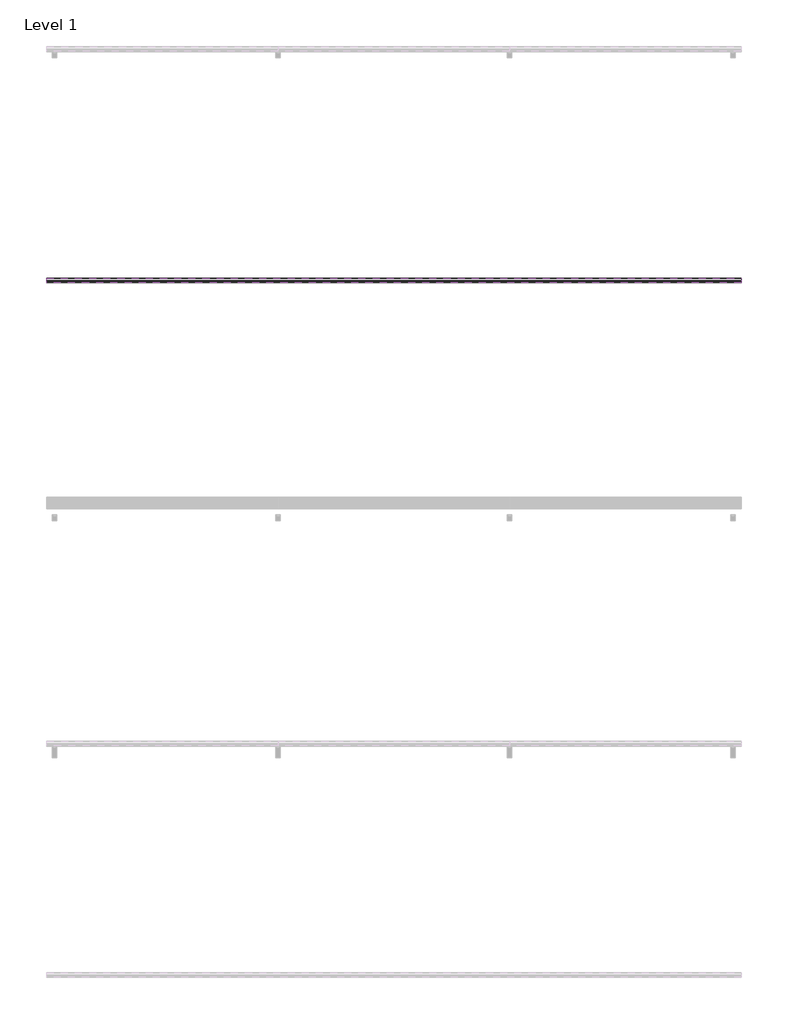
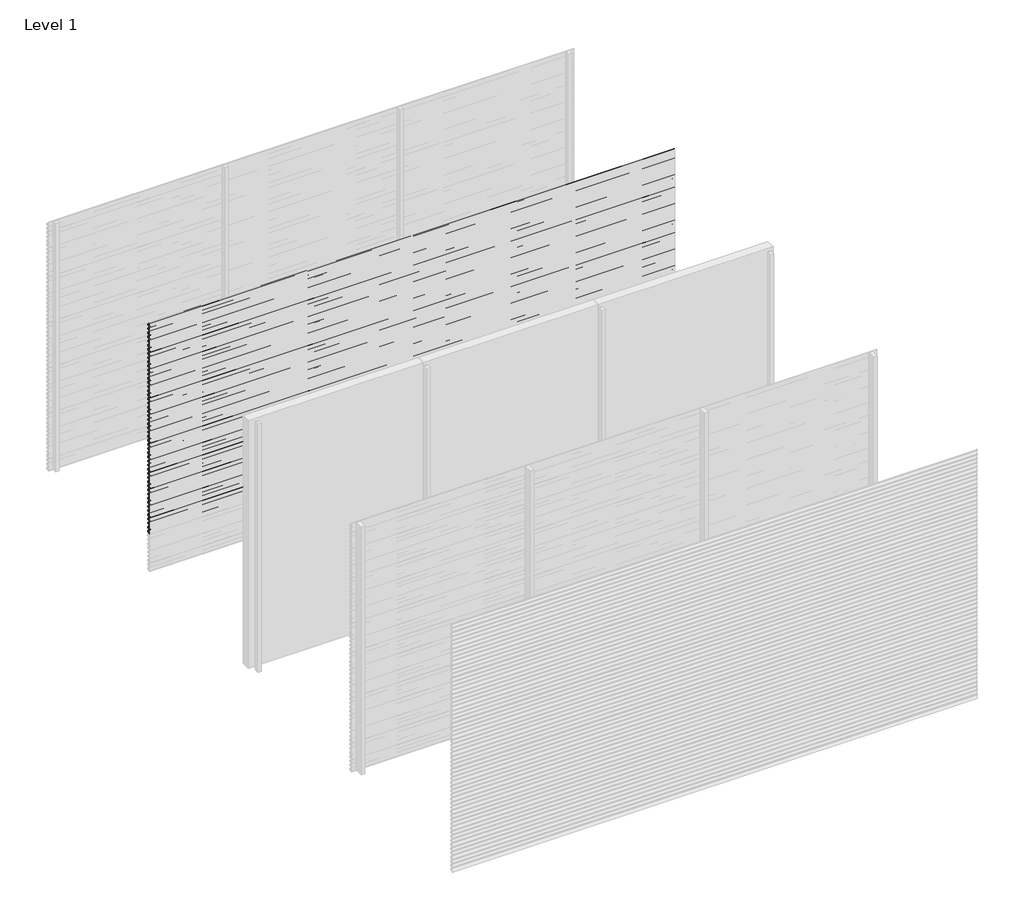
# One storey, part 17 of 38: 66 proxies.
"""IFC4 building model written with IfcOpenShell, lengths in millimetres."""

import ifcopenshell
import ifcopenshell.guid

model = None  # the IFC model being written
_history = None  # IfcOwnerHistory: only IFC2X3 demands one
_inside = {}  # id of a spatial element -> (the spatial element, [elements in it])
_under = {}  # id of a project, library or spatial element -> (it, [spatial elements below it])
_declared = {}  # id of a project -> (the project, [libraries it declares])
_typed = {}  # id of a type object -> (the type object, [elements of that type])
_made_of = {}  # id of a material, layer set ... -> (it, [elements and type objects made of it])


def new_model(schema):
    """Start an empty IFC model of exactly this schema.

    Asked for "IFC4X3", IfcOpenShell would pick the latest addendum, in which some entities
    have other attributes; the version numbers below select the first issue.
    IFC2X3 requires an IfcOwnerHistory on every rooted entity: one is made here for all.
    """
    global model, _history
    if schema == "IFC4X3":
        model = ifcopenshell.file(schema_version=(4, 3, 0, 0))
    else:
        model = ifcopenshell.file(schema=schema)
    _inside.clear()
    _under.clear()
    _declared.clear()
    _typed.clear()
    _made_of.clear()
    _history = None
    if model.schema == "IFC2X3":
        org = make("IfcOrganization", Name="unknown")
        user = make(
            "IfcPersonAndOrganization",
            ThePerson=make("IfcPerson", FamilyName="unknown"),
            TheOrganization=org,
        )
        app = make(
            "IfcApplication",
            ApplicationDeveloper=org,
            Version="unknown",
            ApplicationFullName="unknown",
            ApplicationIdentifier="unknown",
        )
        _history = make(
            "IfcOwnerHistory",
            OwningUser=user,
            OwningApplication=app,
            ChangeAction="ADDED",
            CreationDate=0,
        )
    return model


def make(cls, **values):
    """One entity of the class cls with the attributes given. An attribute that is None is left unset."""
    return model.create_entity(
        cls, **{name: value for name, value in values.items() if value is not None}
    )


def rooted(cls, **values):
    """An entity with a GlobalId (a new one), such as an element, a storey or a relation."""
    return make(cls, GlobalId=ifcopenshell.guid.new(), OwnerHistory=_history, **values)


def si_unit(unit_type, name, prefix=None):
    """IfcSIUnit, for example si_unit("LENGTHUNIT", "METRE", prefix="MILLI")."""
    return make("IfcSIUnit", UnitType=unit_type, Prefix=prefix, Name=name)


def assignment(units):
    """IfcUnitAssignment: the units of a project."""
    return None if units is None else make("IfcUnitAssignment", Units=units)


def point(xyz):
    """IfcCartesianPoint."""
    return None if xyz is None else make("IfcCartesianPoint", Coordinates=xyz)


def direction(xyz):
    """IfcDirection."""
    return None if xyz is None else make("IfcDirection", DirectionRatios=xyz)


def frame(location, z_axis=None, x_axis=None):
    """IfcAxis2Placement3D, a coordinate frame: its origin and axes. An axis left out is left unset."""
    return make(
        "IfcAxis2Placement3D",
        Location=point(location),
        Axis=direction(z_axis),
        RefDirection=direction(x_axis),
    )


def origin():
    """The frame at (0, 0, 0) with its axes left unset."""
    return frame((0.0, 0.0, 0.0))


def place(relative_to, where):
    """IfcLocalPlacement: puts the frame where relative to a parent placement (None: the world)."""
    return make(
        "IfcLocalPlacement", PlacementRelTo=relative_to, RelativePlacement=where
    )


def context(
    kind, dimensions, precision=None, world=None, true_north=None, identifier=None
):
    """IfcGeometricRepresentationContext, for example the 3D "Model" context."""
    return make(
        "IfcGeometricRepresentationContext",
        ContextIdentifier=identifier,
        ContextType=kind,
        CoordinateSpaceDimension=dimensions,
        Precision=precision,
        WorldCoordinateSystem=world,
        TrueNorth=true_north,
    )


def project(units=None, contexts=None):
    """IfcProject with its units and contexts."""
    return rooted(
        "IfcProject",
        Name="project",
        RepresentationContexts=contexts,
        UnitsInContext=assignment(units),
    )


def spatial(cls, under=None, at=None, **own):
    """A site, building, storey or space (cls), placed at a placement, below another one or the project."""
    s = rooted(cls, ObjectPlacement=at, **own)
    if under is not None:
        _under.setdefault(under.id(), (under, []))[1].append(s)
    return s


def polyline(points):
    """IfcPolyline through the points."""
    return make("IfcPolyline", Points=[point(p) for p in points])


def outline(outer, holes=None, kind="AREA"):
    """IfcArbitraryClosedProfileDef: a profile drawn as a closed curve; with holes, ...WithVoids."""
    if holes is None:
        return make("IfcArbitraryClosedProfileDef", ProfileType=kind, OuterCurve=outer)
    return make(
        "IfcArbitraryProfileDefWithVoids",
        ProfileType=kind,
        OuterCurve=outer,
        InnerCurves=holes,
    )


def extrude(swept, where, along, depth):
    """IfcExtrudedAreaSolid: the profile swept, set in the frame where, extruded along a direction by depth."""
    return make(
        "IfcExtrudedAreaSolid",
        SweptArea=swept,
        Position=where,
        ExtrudedDirection=direction(along),
        Depth=depth,
    )


def shape(context_of_items, identifier, shape_type, items):
    """IfcShapeRepresentation: the items that make up one representation, for example the "Body"."""
    return make(
        "IfcShapeRepresentation",
        ContextOfItems=context_of_items,
        RepresentationIdentifier=identifier,
        RepresentationType=shape_type,
        Items=items,
    )


def made_of(thing, what):
    """Note that an element or type object is made of a material, layer set ...; save() writes the relation."""
    if what is not None:
        _made_of.setdefault(what.id(), (what, []))[1].append(thing)
    return thing


def element(
    cls,
    number,
    at=None,
    inside=None,
    cuts=None,
    type_object=None,
    material=None,
    context=None,
    identifier="Body",
    shape_type=None,
    held_by="IfcProductDefinitionShape",
    body=None,
    shapes=None,
    **own,
):
    """One element of the class cls, such as IfcWall. Its Tag is "e" and its number.

    at: its placement. inside: the storey or other place that contains it. cuts: it is an
    opening in that element (IfcRelVoidsElement). A single representation is given by context,
    identifier, shape_type and body (its items); several are given by shapes. held_by: the class
    of the entity that holds the representations. save() writes the other relations.
    """
    e = rooted(cls, Tag="e%d" % number, ObjectPlacement=at, **own)
    if body is not None:
        shapes = [shape(context, identifier, shape_type, body)]
    if shapes is not None:
        e.Representation = make(held_by, Representations=shapes)
    if inside is not None:
        _inside.setdefault(inside.id(), (inside, []))[1].append(e)
    if cuts is not None:
        rooted(
            "IfcRelVoidsElement", RelatingBuildingElement=cuts, RelatedOpeningElement=e
        )
    if type_object is not None:
        _typed.setdefault(type_object.id(), (type_object, []))[1].append(e)
    return made_of(e, material)


def aggregate(whole, parts):
    """IfcRelAggregates: a whole, such as a stair, and the parts it consists of."""
    return rooted("IfcRelAggregates", RelatingObject=whole, RelatedObjects=parts)


def save(model, path):
    """Write the relations noted so far, then the file.

    IfcRelAggregates (storeys below a building ...), IfcRelContainedInSpatialStructure (elements
    in a storey), IfcRelDefinesByType, IfcRelAssociatesMaterial and IfcRelDeclares: one each for
    every whole, place, type object, material and project.
    """
    for whole, parts in _under.values():
        aggregate(whole, parts)
    for where, things in _inside.values():
        rooted(
            "IfcRelContainedInSpatialStructure",
            RelatedElements=things,
            RelatingStructure=where,
        )
    for kind, things in _typed.values():
        rooted("IfcRelDefinesByType", RelatedObjects=things, RelatingType=kind)
    for what, things in _made_of.values():
        rooted("IfcRelAssociatesMaterial", RelatedObjects=things, RelatingMaterial=what)
    for by, libraries in _declared.values():
        rooted("IfcRelDeclares", RelatingContext=by, RelatedDefinitions=libraries)
    model.write(path)


model = new_model("IFC4")

# Units and contexts
model_context = context("Model", 3, world=origin())
ifc_project = project(units=[si_unit("LENGTHUNIT", "METRE", prefix="MILLI")], contexts=[model_context])

# Site, building, storey
site = spatial("IfcSite", under=ifc_project)
building = spatial("IfcBuilding", under=site)
storey = spatial("IfcBuildingStorey", under=building, Name="Level 1", Elevation=0.0)

# Proxies
placement = place(None, origin())
element("IfcBuildingElementProxy", 1, Name="Wall Sweeps", at=placement, inside=storey, context=model_context, shape_type="SweptSolid", body=[
    extrude(outline(polyline([(-31996.75, 3000.0), (-31996.75, 2989.19656), (-31974.6057113, 2976.4115489), (-31957.0, 2959.0472005), (-31957.0, 2944.0472005), (-31958.3, 2945.0268207), (-31958.3, 2958.5034593), (-31969.4914725, 2969.541504), (-31994.2797376, 2940.0), (-31995.9767671, 2940.0), (-31970.4200307, 2970.4573323), (-31975.3999793, 2975.3690091), (-31998.0, 2988.4171371), (-31998.0, 3000.0), (-31996.75, 3000.0)])), frame((0.0, 0.0, 0.0), z_axis=(1.0, 0.0, 0.0), x_axis=(0.0, 1.0, 0.0)), (0.0, 0.0, 1.0), 6000.0),
])
element("IfcBuildingElementProxy", 2, Name="Wall Sweeps", at=placement, inside=storey, context=model_context, shape_type="SweptSolid", body=[
    extrude(outline(polyline([(-31996.75, 2950.0), (-31996.75, 2939.19656), (-31974.6057113, 2926.4115489), (-31957.0, 2909.0472005), (-31957.0, 2894.0472005), (-31958.3, 2895.0268207), (-31958.3, 2908.5034593), (-31969.4914725, 2919.541504), (-31994.2797376, 2890.0), (-31995.9767671, 2890.0), (-31970.4200307, 2920.4573323), (-31975.3999793, 2925.3690091), (-31998.0, 2938.4171371), (-31998.0, 2950.0), (-31996.75, 2950.0)])), frame((0.0, 0.0, 0.0), z_axis=(1.0, 0.0, 0.0), x_axis=(0.0, 1.0, 0.0)), (0.0, 0.0, 1.0), 6000.0),
])
element("IfcBuildingElementProxy", 3, Name="Wall Sweeps", at=placement, inside=storey, context=model_context, shape_type="SweptSolid", body=[
    extrude(outline(polyline([(-31996.75, 2900.0), (-31996.75, 2889.19656), (-31974.6057113, 2876.4115489), (-31957.0, 2859.0472005), (-31957.0, 2844.0472005), (-31958.3, 2845.0268207), (-31958.3, 2858.5034593), (-31969.4914725, 2869.541504), (-31994.2797376, 2840.0), (-31995.9767671, 2840.0), (-31970.4200307, 2870.4573323), (-31975.3999793, 2875.3690091), (-31998.0, 2888.4171371), (-31998.0, 2900.0), (-31996.75, 2900.0)])), frame((0.0, 0.0, 0.0), z_axis=(1.0, 0.0, 0.0), x_axis=(0.0, 1.0, 0.0)), (0.0, 0.0, 1.0), 6000.0),
])
element("IfcBuildingElementProxy", 4, Name="Wall Sweeps", at=placement, inside=storey, context=model_context, shape_type="SweptSolid", body=[
    extrude(outline(polyline([(-31996.75, 2850.0), (-31996.75, 2839.19656), (-31974.6057113, 2826.4115489), (-31957.0, 2809.0472005), (-31957.0, 2794.0472005), (-31958.3, 2795.0268207), (-31958.3, 2808.5034593), (-31969.4914725, 2819.541504), (-31994.2797376, 2790.0), (-31995.9767671, 2790.0), (-31970.4200307, 2820.4573323), (-31975.3999793, 2825.3690091), (-31998.0, 2838.4171371), (-31998.0, 2850.0), (-31996.75, 2850.0)])), frame((0.0, 0.0, 0.0), z_axis=(1.0, 0.0, 0.0), x_axis=(0.0, 1.0, 0.0)), (0.0, 0.0, 1.0), 6000.0),
])
element("IfcBuildingElementProxy", 5, Name="Wall Sweeps", at=placement, inside=storey, context=model_context, shape_type="SweptSolid", body=[
    extrude(outline(polyline([(-31996.75, 2800.0), (-31996.75, 2789.19656), (-31974.6057113, 2776.4115489), (-31957.0, 2759.0472005), (-31957.0, 2744.0472005), (-31958.3, 2745.0268207), (-31958.3, 2758.5034593), (-31969.4914725, 2769.541504), (-31994.2797376, 2740.0), (-31995.9767671, 2740.0), (-31970.4200307, 2770.4573323), (-31975.3999793, 2775.3690091), (-31998.0, 2788.4171371), (-31998.0, 2800.0), (-31996.75, 2800.0)])), frame((0.0, 0.0, 0.0), z_axis=(1.0, 0.0, 0.0), x_axis=(0.0, 1.0, 0.0)), (0.0, 0.0, 1.0), 6000.0),
])
element("IfcBuildingElementProxy", 6, Name="Wall Sweeps", at=placement, inside=storey, context=model_context, shape_type="SweptSolid", body=[
    extrude(outline(polyline([(-31996.75, 2750.0), (-31996.75, 2739.19656), (-31974.6057113, 2726.4115489), (-31957.0, 2709.0472005), (-31957.0, 2694.0472005), (-31958.3, 2695.0268207), (-31958.3, 2708.5034593), (-31969.4914725, 2719.541504), (-31994.2797376, 2690.0), (-31995.9767671, 2690.0), (-31970.4200307, 2720.4573323), (-31975.3999793, 2725.3690091), (-31998.0, 2738.4171371), (-31998.0, 2750.0), (-31996.75, 2750.0)])), frame((0.0, 0.0, 0.0), z_axis=(1.0, 0.0, 0.0), x_axis=(0.0, 1.0, 0.0)), (0.0, 0.0, 1.0), 6000.0),
])
element("IfcBuildingElementProxy", 7, Name="Wall Sweeps", at=placement, inside=storey, context=model_context, shape_type="SweptSolid", body=[
    extrude(outline(polyline([(-31996.75, 2700.0), (-31996.75, 2689.19656), (-31974.6057113, 2676.4115489), (-31957.0, 2659.0472005), (-31957.0, 2644.0472005), (-31958.3, 2645.0268207), (-31958.3, 2658.5034593), (-31969.4914725, 2669.541504), (-31994.2797376, 2640.0), (-31995.9767671, 2640.0), (-31970.4200307, 2670.4573323), (-31975.3999793, 2675.3690091), (-31998.0, 2688.4171371), (-31998.0, 2700.0), (-31996.75, 2700.0)])), frame((0.0, 0.0, 0.0), z_axis=(1.0, 0.0, 0.0), x_axis=(0.0, 1.0, 0.0)), (0.0, 0.0, 1.0), 6000.0),
])
element("IfcBuildingElementProxy", 8, Name="Wall Sweeps", at=placement, inside=storey, context=model_context, shape_type="SweptSolid", body=[
    extrude(outline(polyline([(-31996.75, 2650.0), (-31996.75, 2639.19656), (-31974.6057113, 2626.4115489), (-31957.0, 2609.0472005), (-31957.0, 2594.0472005), (-31958.3, 2595.0268207), (-31958.3, 2608.5034593), (-31969.4914725, 2619.541504), (-31994.2797376, 2590.0), (-31995.9767671, 2590.0), (-31970.4200307, 2620.4573323), (-31975.3999793, 2625.3690091), (-31998.0, 2638.4171371), (-31998.0, 2650.0), (-31996.75, 2650.0)])), frame((0.0, 0.0, 0.0), z_axis=(1.0, 0.0, 0.0), x_axis=(0.0, 1.0, 0.0)), (0.0, 0.0, 1.0), 6000.0),
])
element("IfcBuildingElementProxy", 9, Name="Wall Sweeps", at=placement, inside=storey, context=model_context, shape_type="SweptSolid", body=[
    extrude(outline(polyline([(-31996.75, 2600.0), (-31996.75, 2589.19656), (-31974.6057113, 2576.4115489), (-31957.0, 2559.0472005), (-31957.0, 2544.0472005), (-31958.3, 2545.0268207), (-31958.3, 2558.5034593), (-31969.4914725, 2569.541504), (-31994.2797376, 2540.0), (-31995.9767671, 2540.0), (-31970.4200307, 2570.4573323), (-31975.3999793, 2575.3690091), (-31998.0, 2588.4171371), (-31998.0, 2600.0), (-31996.75, 2600.0)])), frame((0.0, 0.0, 0.0), z_axis=(1.0, 0.0, 0.0), x_axis=(0.0, 1.0, 0.0)), (0.0, 0.0, 1.0), 6000.0),
])
element("IfcBuildingElementProxy", 10, Name="Wall Sweeps", at=placement, inside=storey, context=model_context, shape_type="SweptSolid", body=[
    extrude(outline(polyline([(-31996.75, 2550.0), (-31996.75, 2539.19656), (-31974.6057113, 2526.4115489), (-31957.0, 2509.0472005), (-31957.0, 2494.0472005), (-31958.3, 2495.0268207), (-31958.3, 2508.5034593), (-31969.4914725, 2519.541504), (-31994.2797376, 2490.0), (-31995.9767671, 2490.0), (-31970.4200307, 2520.4573323), (-31975.3999793, 2525.3690091), (-31998.0, 2538.4171371), (-31998.0, 2550.0), (-31996.75, 2550.0)])), frame((0.0, 0.0, 0.0), z_axis=(1.0, 0.0, 0.0), x_axis=(0.0, 1.0, 0.0)), (0.0, 0.0, 1.0), 6000.0),
])
element("IfcBuildingElementProxy", 11, Name="Wall Sweeps", at=placement, inside=storey, context=model_context, shape_type="SweptSolid", body=[
    extrude(outline(polyline([(-31996.75, 2500.0), (-31996.75, 2489.19656), (-31974.6057113, 2476.4115489), (-31957.0, 2459.0472005), (-31957.0, 2444.0472005), (-31958.3, 2445.0268207), (-31958.3, 2458.5034593), (-31969.4914725, 2469.541504), (-31994.2797376, 2440.0), (-31995.9767671, 2440.0), (-31970.4200307, 2470.4573323), (-31975.3999793, 2475.3690091), (-31998.0, 2488.4171371), (-31998.0, 2500.0), (-31996.75, 2500.0)])), frame((0.0, 0.0, 0.0), z_axis=(1.0, 0.0, 0.0), x_axis=(0.0, 1.0, 0.0)), (0.0, 0.0, 1.0), 6000.0),
])
element("IfcBuildingElementProxy", 12, Name="Wall Sweeps", at=placement, inside=storey, context=model_context, shape_type="SweptSolid", body=[
    extrude(outline(polyline([(-31996.75, 2450.0), (-31996.75, 2439.19656), (-31974.6057113, 2426.4115489), (-31957.0, 2409.0472005), (-31957.0, 2394.0472005), (-31958.3, 2395.0268207), (-31958.3, 2408.5034593), (-31969.4914725, 2419.541504), (-31994.2797376, 2390.0), (-31995.9767671, 2390.0), (-31970.4200307, 2420.4573323), (-31975.3999793, 2425.3690091), (-31998.0, 2438.4171371), (-31998.0, 2450.0), (-31996.75, 2450.0)])), frame((0.0, 0.0, 0.0), z_axis=(1.0, 0.0, 0.0), x_axis=(0.0, 1.0, 0.0)), (0.0, 0.0, 1.0), 6000.0),
])
element("IfcBuildingElementProxy", 13, Name="Wall Sweeps", at=placement, inside=storey, context=model_context, shape_type="SweptSolid", body=[
    extrude(outline(polyline([(-31996.75, 2400.0), (-31996.75, 2389.19656), (-31974.6057113, 2376.4115489), (-31957.0, 2359.0472005), (-31957.0, 2344.0472005), (-31958.3, 2345.0268207), (-31958.3, 2358.5034593), (-31969.4914725, 2369.541504), (-31994.2797376, 2340.0), (-31995.9767671, 2340.0), (-31970.4200307, 2370.4573323), (-31975.3999793, 2375.3690091), (-31998.0, 2388.4171371), (-31998.0, 2400.0), (-31996.75, 2400.0)])), frame((0.0, 0.0, 0.0), z_axis=(1.0, 0.0, 0.0), x_axis=(0.0, 1.0, 0.0)), (0.0, 0.0, 1.0), 6000.0),
])
element("IfcBuildingElementProxy", 14, Name="Wall Sweeps", at=placement, inside=storey, context=model_context, shape_type="SweptSolid", body=[
    extrude(outline(polyline([(-31996.75, 2350.0), (-31996.75, 2339.19656), (-31974.6057113, 2326.4115489), (-31957.0, 2309.0472005), (-31957.0, 2294.0472005), (-31958.3, 2295.0268207), (-31958.3, 2308.5034593), (-31969.4914725, 2319.541504), (-31994.2797376, 2290.0), (-31995.9767671, 2290.0), (-31970.4200307, 2320.4573323), (-31975.3999793, 2325.3690091), (-31998.0, 2338.4171371), (-31998.0, 2350.0), (-31996.75, 2350.0)])), frame((0.0, 0.0, 0.0), z_axis=(1.0, 0.0, 0.0), x_axis=(0.0, 1.0, 0.0)), (0.0, 0.0, 1.0), 6000.0),
])
element("IfcBuildingElementProxy", 15, Name="Wall Sweeps", at=placement, inside=storey, context=model_context, shape_type="SweptSolid", body=[
    extrude(outline(polyline([(-31996.75, 2300.0), (-31996.75, 2289.19656), (-31974.6057113, 2276.4115489), (-31957.0, 2259.0472005), (-31957.0, 2244.0472005), (-31958.3, 2245.0268207), (-31958.3, 2258.5034593), (-31969.4914725, 2269.541504), (-31994.2797376, 2240.0), (-31995.9767671, 2240.0), (-31970.4200307, 2270.4573323), (-31975.3999793, 2275.3690091), (-31998.0, 2288.4171371), (-31998.0, 2300.0), (-31996.75, 2300.0)])), frame((0.0, 0.0, 0.0), z_axis=(1.0, 0.0, 0.0), x_axis=(0.0, 1.0, 0.0)), (0.0, 0.0, 1.0), 6000.0),
])
element("IfcBuildingElementProxy", 16, Name="Wall Sweeps", at=placement, inside=storey, context=model_context, shape_type="SweptSolid", body=[
    extrude(outline(polyline([(-31996.75, 2250.0), (-31996.75, 2239.19656), (-31974.6057113, 2226.4115489), (-31957.0, 2209.0472005), (-31957.0, 2194.0472005), (-31958.3, 2195.0268207), (-31958.3, 2208.5034593), (-31969.4914725, 2219.541504), (-31994.2797376, 2190.0), (-31995.9767671, 2190.0), (-31970.4200307, 2220.4573323), (-31975.3999793, 2225.3690091), (-31998.0, 2238.4171371), (-31998.0, 2250.0), (-31996.75, 2250.0)])), frame((0.0, 0.0, 0.0), z_axis=(1.0, 0.0, 0.0), x_axis=(0.0, 1.0, 0.0)), (0.0, 0.0, 1.0), 6000.0),
])
element("IfcBuildingElementProxy", 17, Name="Wall Sweeps", at=placement, inside=storey, context=model_context, shape_type="SweptSolid", body=[
    extrude(outline(polyline([(-31996.75, 2200.0), (-31996.75, 2189.19656), (-31974.6057113, 2176.4115489), (-31957.0, 2159.0472005), (-31957.0, 2144.0472005), (-31958.3, 2145.0268207), (-31958.3, 2158.5034593), (-31969.4914725, 2169.541504), (-31994.2797376, 2140.0), (-31995.9767671, 2140.0), (-31970.4200307, 2170.4573323), (-31975.3999793, 2175.3690091), (-31998.0, 2188.4171371), (-31998.0, 2200.0), (-31996.75, 2200.0)])), frame((0.0, 0.0, 0.0), z_axis=(1.0, 0.0, 0.0), x_axis=(0.0, 1.0, 0.0)), (0.0, 0.0, 1.0), 6000.0),
])
element("IfcBuildingElementProxy", 18, Name="Wall Sweeps", at=placement, inside=storey, context=model_context, shape_type="SweptSolid", body=[
    extrude(outline(polyline([(-31996.75, 2150.0), (-31996.75, 2139.19656), (-31974.6057113, 2126.4115489), (-31957.0, 2109.0472005), (-31957.0, 2094.0472005), (-31958.3, 2095.0268207), (-31958.3, 2108.5034593), (-31969.4914725, 2119.541504), (-31994.2797376, 2090.0), (-31995.9767671, 2090.0), (-31970.4200307, 2120.4573323), (-31975.3999793, 2125.3690091), (-31998.0, 2138.4171371), (-31998.0, 2150.0), (-31996.75, 2150.0)])), frame((0.0, 0.0, 0.0), z_axis=(1.0, 0.0, 0.0), x_axis=(0.0, 1.0, 0.0)), (0.0, 0.0, 1.0), 6000.0),
])
element("IfcBuildingElementProxy", 19, Name="Wall Sweeps", at=placement, inside=storey, context=model_context, shape_type="SweptSolid", body=[
    extrude(outline(polyline([(-31996.75, 2100.0), (-31996.75, 2089.19656), (-31974.6057113, 2076.4115489), (-31957.0, 2059.0472005), (-31957.0, 2044.0472005), (-31958.3, 2045.0268207), (-31958.3, 2058.5034593), (-31969.4914725, 2069.541504), (-31994.2797376, 2040.0), (-31995.9767671, 2040.0), (-31970.4200307, 2070.4573323), (-31975.3999793, 2075.3690091), (-31998.0, 2088.4171371), (-31998.0, 2100.0), (-31996.75, 2100.0)])), frame((0.0, 0.0, 0.0), z_axis=(1.0, 0.0, 0.0), x_axis=(0.0, 1.0, 0.0)), (0.0, 0.0, 1.0), 6000.0),
])
element("IfcBuildingElementProxy", 20, Name="Wall Sweeps", at=placement, inside=storey, context=model_context, shape_type="SweptSolid", body=[
    extrude(outline(polyline([(-31996.75, 2050.0), (-31996.75, 2039.19656), (-31974.6057113, 2026.4115489), (-31957.0, 2009.0472005), (-31957.0, 1994.0472005), (-31958.3, 1995.0268207), (-31958.3, 2008.5034593), (-31969.4914725, 2019.541504), (-31994.2797376, 1990.0), (-31995.9767671, 1990.0), (-31970.4200307, 2020.4573323), (-31975.3999793, 2025.3690091), (-31998.0, 2038.4171371), (-31998.0, 2050.0), (-31996.75, 2050.0)])), frame((0.0, 0.0, 0.0), z_axis=(1.0, 0.0, 0.0), x_axis=(0.0, 1.0, 0.0)), (0.0, 0.0, 1.0), 6000.0),
])
element("IfcBuildingElementProxy", 21, Name="Wall Sweeps", at=placement, inside=storey, context=model_context, shape_type="SweptSolid", body=[
    extrude(outline(polyline([(-31996.75, 2000.0), (-31996.75, 1989.19656), (-31974.6057113, 1976.4115489), (-31957.0, 1959.0472005), (-31957.0, 1944.0472005), (-31958.3, 1945.0268207), (-31958.3, 1958.5034593), (-31969.4914725, 1969.541504), (-31994.2797376, 1940.0), (-31995.9767671, 1940.0), (-31970.4200307, 1970.4573323), (-31975.3999793, 1975.3690091), (-31998.0, 1988.4171371), (-31998.0, 2000.0), (-31996.75, 2000.0)])), frame((0.0, 0.0, 0.0), z_axis=(1.0, 0.0, 0.0), x_axis=(0.0, 1.0, 0.0)), (0.0, 0.0, 1.0), 6000.0),
])
element("IfcBuildingElementProxy", 22, Name="Wall Sweeps", at=placement, inside=storey, context=model_context, shape_type="SweptSolid", body=[
    extrude(outline(polyline([(-31996.75, 1950.0), (-31996.75, 1939.19656), (-31974.6057113, 1926.4115489), (-31957.0, 1909.0472005), (-31957.0, 1894.0472005), (-31958.3, 1895.0268207), (-31958.3, 1908.5034593), (-31969.4914725, 1919.541504), (-31994.2797376, 1890.0), (-31995.9767671, 1890.0), (-31970.4200307, 1920.4573323), (-31975.3999793, 1925.3690091), (-31998.0, 1938.4171371), (-31998.0, 1950.0), (-31996.75, 1950.0)])), frame((0.0, 0.0, 0.0), z_axis=(1.0, 0.0, 0.0), x_axis=(0.0, 1.0, 0.0)), (0.0, 0.0, 1.0), 6000.0),
])
element("IfcBuildingElementProxy", 23, Name="Wall Sweeps", at=placement, inside=storey, context=model_context, shape_type="SweptSolid", body=[
    extrude(outline(polyline([(-31996.75, 1900.0), (-31996.75, 1889.19656), (-31974.6057113, 1876.4115489), (-31957.0, 1859.0472005), (-31957.0, 1844.0472005), (-31958.3, 1845.0268207), (-31958.3, 1858.5034593), (-31969.4914725, 1869.541504), (-31994.2797376, 1840.0), (-31995.9767671, 1840.0), (-31970.4200307, 1870.4573323), (-31975.3999793, 1875.3690091), (-31998.0, 1888.4171371), (-31998.0, 1900.0), (-31996.75, 1900.0)])), frame((0.0, 0.0, 0.0), z_axis=(1.0, 0.0, 0.0), x_axis=(0.0, 1.0, 0.0)), (0.0, 0.0, 1.0), 6000.0),
])
element("IfcBuildingElementProxy", 24, Name="Wall Sweeps", at=placement, inside=storey, context=model_context, shape_type="SweptSolid", body=[
    extrude(outline(polyline([(-31996.75, 1850.0), (-31996.75, 1839.19656), (-31974.6057113, 1826.4115489), (-31957.0, 1809.0472005), (-31957.0, 1794.0472005), (-31958.3, 1795.0268207), (-31958.3, 1808.5034593), (-31969.4914725, 1819.541504), (-31994.2797376, 1790.0), (-31995.9767671, 1790.0), (-31970.4200307, 1820.4573323), (-31975.3999793, 1825.3690091), (-31998.0, 1838.4171371), (-31998.0, 1850.0), (-31996.75, 1850.0)])), frame((0.0, 0.0, 0.0), z_axis=(1.0, 0.0, 0.0), x_axis=(0.0, 1.0, 0.0)), (0.0, 0.0, 1.0), 6000.0),
])
element("IfcBuildingElementProxy", 25, Name="Wall Sweeps", at=placement, inside=storey, context=model_context, shape_type="SweptSolid", body=[
    extrude(outline(polyline([(-31996.75, 1800.0), (-31996.75, 1789.19656), (-31974.6057113, 1776.4115489), (-31957.0, 1759.0472005), (-31957.0, 1744.0472005), (-31958.3, 1745.0268207), (-31958.3, 1758.5034593), (-31969.4914725, 1769.541504), (-31994.2797376, 1740.0), (-31995.9767671, 1740.0), (-31970.4200307, 1770.4573323), (-31975.3999793, 1775.3690091), (-31998.0, 1788.4171371), (-31998.0, 1800.0), (-31996.75, 1800.0)])), frame((0.0, 0.0, 0.0), z_axis=(1.0, 0.0, 0.0), x_axis=(0.0, 1.0, 0.0)), (0.0, 0.0, 1.0), 6000.0),
])
element("IfcBuildingElementProxy", 26, Name="Wall Sweeps", at=placement, inside=storey, context=model_context, shape_type="SweptSolid", body=[
    extrude(outline(polyline([(-31996.75, 1750.0), (-31996.75, 1739.19656), (-31974.6057113, 1726.4115489), (-31957.0, 1709.0472005), (-31957.0, 1694.0472005), (-31958.3, 1695.0268207), (-31958.3, 1708.5034593), (-31969.4914725, 1719.541504), (-31994.2797376, 1690.0), (-31995.9767671, 1690.0), (-31970.4200307, 1720.4573323), (-31975.3999793, 1725.3690091), (-31998.0, 1738.4171371), (-31998.0, 1750.0), (-31996.75, 1750.0)])), frame((0.0, 0.0, 0.0), z_axis=(1.0, 0.0, 0.0), x_axis=(0.0, 1.0, 0.0)), (0.0, 0.0, 1.0), 6000.0),
])
element("IfcBuildingElementProxy", 27, Name="Wall Sweeps", at=placement, inside=storey, context=model_context, shape_type="SweptSolid", body=[
    extrude(outline(polyline([(-31996.75, 1700.0), (-31996.75, 1689.19656), (-31974.6057113, 1676.4115489), (-31957.0, 1659.0472005), (-31957.0, 1644.0472005), (-31958.3, 1645.0268207), (-31958.3, 1658.5034593), (-31969.4914725, 1669.541504), (-31994.2797376, 1640.0), (-31995.9767671, 1640.0), (-31970.4200307, 1670.4573323), (-31975.3999793, 1675.3690091), (-31998.0, 1688.4171371), (-31998.0, 1700.0), (-31996.75, 1700.0)])), frame((0.0, 0.0, 0.0), z_axis=(1.0, 0.0, 0.0), x_axis=(0.0, 1.0, 0.0)), (0.0, 0.0, 1.0), 6000.0),
])
element("IfcBuildingElementProxy", 28, Name="Wall Sweeps", at=placement, inside=storey, context=model_context, shape_type="SweptSolid", body=[
    extrude(outline(polyline([(-31996.75, 1650.0), (-31996.75, 1639.19656), (-31974.6057113, 1626.4115489), (-31957.0, 1609.0472005), (-31957.0, 1594.0472005), (-31958.3, 1595.0268207), (-31958.3, 1608.5034593), (-31969.4914725, 1619.541504), (-31994.2797376, 1590.0), (-31995.9767671, 1590.0), (-31970.4200307, 1620.4573323), (-31975.3999793, 1625.3690091), (-31998.0, 1638.4171371), (-31998.0, 1650.0), (-31996.75, 1650.0)])), frame((0.0, 0.0, 0.0), z_axis=(1.0, 0.0, 0.0), x_axis=(0.0, 1.0, 0.0)), (0.0, 0.0, 1.0), 6000.0),
])
element("IfcBuildingElementProxy", 29, Name="Wall Sweeps", at=placement, inside=storey, context=model_context, shape_type="SweptSolid", body=[
    extrude(outline(polyline([(-31996.75, 1600.0), (-31996.75, 1589.19656), (-31974.6057113, 1576.4115489), (-31957.0, 1559.0472005), (-31957.0, 1544.0472005), (-31958.3, 1545.0268207), (-31958.3, 1558.5034593), (-31969.4914725, 1569.541504), (-31994.2797376, 1540.0), (-31995.9767671, 1540.0), (-31970.4200307, 1570.4573323), (-31975.3999793, 1575.3690091), (-31998.0, 1588.4171371), (-31998.0, 1600.0), (-31996.75, 1600.0)])), frame((0.0, 0.0, 0.0), z_axis=(1.0, 0.0, 0.0), x_axis=(0.0, 1.0, 0.0)), (0.0, 0.0, 1.0), 6000.0),
])
element("IfcBuildingElementProxy", 30, Name="Wall Sweeps", at=placement, inside=storey, context=model_context, shape_type="SweptSolid", body=[
    extrude(outline(polyline([(-31996.75, 1550.0), (-31996.75, 1539.19656), (-31974.6057113, 1526.4115489), (-31957.0, 1509.0472005), (-31957.0, 1494.0472005), (-31958.3, 1495.0268207), (-31958.3, 1508.5034593), (-31969.4914725, 1519.541504), (-31994.2797376, 1490.0), (-31995.9767671, 1490.0), (-31970.4200307, 1520.4573323), (-31975.3999793, 1525.3690091), (-31998.0, 1538.4171371), (-31998.0, 1550.0), (-31996.75, 1550.0)])), frame((0.0, 0.0, 0.0), z_axis=(1.0, 0.0, 0.0), x_axis=(0.0, 1.0, 0.0)), (0.0, 0.0, 1.0), 6000.0),
])
element("IfcBuildingElementProxy", 31, Name="Wall Sweeps", at=placement, inside=storey, context=model_context, shape_type="SweptSolid", body=[
    extrude(outline(polyline([(-31996.75, 1500.0), (-31996.75, 1489.19656), (-31974.6057113, 1476.4115489), (-31957.0, 1459.0472005), (-31957.0, 1444.0472005), (-31958.3, 1445.0268207), (-31958.3, 1458.5034593), (-31969.4914725, 1469.541504), (-31994.2797376, 1440.0), (-31995.9767671, 1440.0), (-31970.4200307, 1470.4573323), (-31975.3999793, 1475.3690091), (-31998.0, 1488.4171371), (-31998.0, 1500.0), (-31996.75, 1500.0)])), frame((0.0, 0.0, 0.0), z_axis=(1.0, 0.0, 0.0), x_axis=(0.0, 1.0, 0.0)), (0.0, 0.0, 1.0), 6000.0),
])
element("IfcBuildingElementProxy", 32, Name="Wall Sweeps", at=placement, inside=storey, context=model_context, shape_type="SweptSolid", body=[
    extrude(outline(polyline([(-31996.75, 1450.0), (-31996.75, 1439.19656), (-31974.6057113, 1426.4115489), (-31957.0, 1409.0472005), (-31957.0, 1394.0472005), (-31958.3, 1395.0268207), (-31958.3, 1408.5034593), (-31969.4914725, 1419.541504), (-31994.2797376, 1390.0), (-31995.9767671, 1390.0), (-31970.4200307, 1420.4573323), (-31975.3999793, 1425.3690091), (-31998.0, 1438.4171371), (-31998.0, 1450.0), (-31996.75, 1450.0)])), frame((0.0, 0.0, 0.0), z_axis=(1.0, 0.0, 0.0), x_axis=(0.0, 1.0, 0.0)), (0.0, 0.0, 1.0), 6000.0),
])
element("IfcBuildingElementProxy", 33, Name="Wall Sweeps", at=placement, inside=storey, context=model_context, shape_type="SweptSolid", body=[
    extrude(outline(polyline([(-31996.75, 1400.0), (-31996.75, 1389.19656), (-31974.6057113, 1376.4115489), (-31957.0, 1359.0472005), (-31957.0, 1344.0472005), (-31958.3, 1345.0268207), (-31958.3, 1358.5034593), (-31969.4914725, 1369.541504), (-31994.2797376, 1340.0), (-31995.9767671, 1340.0), (-31970.4200307, 1370.4573323), (-31975.3999793, 1375.3690091), (-31998.0, 1388.4171371), (-31998.0, 1400.0), (-31996.75, 1400.0)])), frame((0.0, 0.0, 0.0), z_axis=(1.0, 0.0, 0.0), x_axis=(0.0, 1.0, 0.0)), (0.0, 0.0, 1.0), 6000.0),
])
element("IfcBuildingElementProxy", 34, Name="Wall Sweeps", at=placement, inside=storey, context=model_context, shape_type="SweptSolid", body=[
    extrude(outline(polyline([(-31996.75, 1350.0), (-31996.75, 1339.19656), (-31974.6057113, 1326.4115489), (-31957.0, 1309.0472005), (-31957.0, 1294.0472005), (-31958.3, 1295.0268207), (-31958.3, 1308.5034593), (-31969.4914725, 1319.541504), (-31994.2797376, 1290.0), (-31995.9767671, 1290.0), (-31970.4200307, 1320.4573323), (-31975.3999793, 1325.3690091), (-31998.0, 1338.4171371), (-31998.0, 1350.0), (-31996.75, 1350.0)])), frame((0.0, 0.0, 0.0), z_axis=(1.0, 0.0, 0.0), x_axis=(0.0, 1.0, 0.0)), (0.0, 0.0, 1.0), 6000.0),
])
element("IfcBuildingElementProxy", 35, Name="Wall Sweeps", at=placement, inside=storey, context=model_context, shape_type="SweptSolid", body=[
    extrude(outline(polyline([(-31996.75, 1300.0), (-31996.75, 1289.19656), (-31974.6057113, 1276.4115489), (-31957.0, 1259.0472005), (-31957.0, 1244.0472005), (-31958.3, 1245.0268207), (-31958.3, 1258.5034593), (-31969.4914725, 1269.541504), (-31994.2797376, 1240.0), (-31995.9767671, 1240.0), (-31970.4200307, 1270.4573323), (-31975.3999793, 1275.3690091), (-31998.0, 1288.4171371), (-31998.0, 1300.0), (-31996.75, 1300.0)])), frame((0.0, 0.0, 0.0), z_axis=(1.0, 0.0, 0.0), x_axis=(0.0, 1.0, 0.0)), (0.0, 0.0, 1.0), 6000.0),
])
element("IfcBuildingElementProxy", 36, Name="Wall Sweeps", at=placement, inside=storey, context=model_context, shape_type="SweptSolid", body=[
    extrude(outline(polyline([(-31996.75, 1250.0), (-31996.75, 1239.19656), (-31974.6057113, 1226.4115489), (-31957.0, 1209.0472005), (-31957.0, 1194.0472005), (-31958.3, 1195.0268207), (-31958.3, 1208.5034593), (-31969.4914725, 1219.541504), (-31994.2797376, 1190.0), (-31995.9767671, 1190.0), (-31970.4200307, 1220.4573323), (-31975.3999793, 1225.3690091), (-31998.0, 1238.4171371), (-31998.0, 1250.0), (-31996.75, 1250.0)])), frame((0.0, 0.0, 0.0), z_axis=(1.0, 0.0, 0.0), x_axis=(0.0, 1.0, 0.0)), (0.0, 0.0, 1.0), 6000.0),
])
element("IfcBuildingElementProxy", 37, Name="Wall Sweeps", at=placement, inside=storey, context=model_context, shape_type="SweptSolid", body=[
    extrude(outline(polyline([(-31996.75, 1200.0), (-31996.75, 1189.19656), (-31974.6057113, 1176.4115489), (-31957.0, 1159.0472005), (-31957.0, 1144.0472005), (-31958.3, 1145.0268207), (-31958.3, 1158.5034593), (-31969.4914725, 1169.541504), (-31994.2797376, 1140.0), (-31995.9767671, 1140.0), (-31970.4200307, 1170.4573323), (-31975.3999793, 1175.3690091), (-31998.0, 1188.4171371), (-31998.0, 1200.0), (-31996.75, 1200.0)])), frame((0.0, 0.0, 0.0), z_axis=(1.0, 0.0, 0.0), x_axis=(0.0, 1.0, 0.0)), (0.0, 0.0, 1.0), 6000.0),
])
element("IfcBuildingElementProxy", 38, Name="Wall Sweeps", at=placement, inside=storey, context=model_context, shape_type="SweptSolid", body=[
    extrude(outline(polyline([(-31996.75, 1150.0), (-31996.75, 1139.19656), (-31974.6057113, 1126.4115489), (-31957.0, 1109.0472005), (-31957.0, 1094.0472005), (-31958.3, 1095.0268207), (-31958.3, 1108.5034593), (-31969.4914725, 1119.541504), (-31994.2797376, 1090.0), (-31995.9767671, 1090.0), (-31970.4200307, 1120.4573323), (-31975.3999793, 1125.3690091), (-31998.0, 1138.4171371), (-31998.0, 1150.0), (-31996.75, 1150.0)])), frame((0.0, 0.0, 0.0), z_axis=(1.0, 0.0, 0.0), x_axis=(0.0, 1.0, 0.0)), (0.0, 0.0, 1.0), 6000.0),
])
element("IfcBuildingElementProxy", 39, Name="Wall Sweeps", at=placement, inside=storey, context=model_context, shape_type="SweptSolid", body=[
    extrude(outline(polyline([(-31996.75, 1100.0), (-31996.75, 1089.19656), (-31974.6057113, 1076.4115489), (-31957.0, 1059.0472005), (-31957.0, 1044.0472005), (-31958.3, 1045.0268207), (-31958.3, 1058.5034593), (-31969.4914725, 1069.541504), (-31994.2797376, 1040.0), (-31995.9767671, 1040.0), (-31970.4200307, 1070.4573323), (-31975.3999793, 1075.3690091), (-31998.0, 1088.4171371), (-31998.0, 1100.0), (-31996.75, 1100.0)])), frame((0.0, 0.0, 0.0), z_axis=(1.0, 0.0, 0.0), x_axis=(0.0, 1.0, 0.0)), (0.0, 0.0, 1.0), 6000.0),
])
element("IfcBuildingElementProxy", 40, Name="Wall Sweeps", at=placement, inside=storey, context=model_context, shape_type="SweptSolid", body=[
    extrude(outline(polyline([(-31996.75, 1050.0), (-31996.75, 1039.19656), (-31974.6057113, 1026.4115489), (-31957.0, 1009.0472005), (-31957.0, 994.0472005), (-31958.3, 995.0268207), (-31958.3, 1008.5034593), (-31969.4914725, 1019.541504), (-31994.2797376, 990.0), (-31995.9767671, 990.0), (-31970.4200307, 1020.4573323), (-31975.3999793, 1025.3690091), (-31998.0, 1038.4171371), (-31998.0, 1050.0), (-31996.75, 1050.0)])), frame((0.0, 0.0, 0.0), z_axis=(1.0, 0.0, 0.0), x_axis=(0.0, 1.0, 0.0)), (0.0, 0.0, 1.0), 6000.0),
])
element("IfcBuildingElementProxy", 41, Name="Wall Sweeps", at=placement, inside=storey, context=model_context, shape_type="SweptSolid", body=[
    extrude(outline(polyline([(-31996.75, 1000.0), (-31996.75, 989.19656), (-31974.6057113, 976.4115489), (-31957.0, 959.0472005), (-31957.0, 944.0472005), (-31958.3, 945.0268207), (-31958.3, 958.5034593), (-31969.4914725, 969.541504), (-31994.2797376, 940.0), (-31995.9767671, 940.0), (-31970.4200307, 970.4573323), (-31975.3999793, 975.3690091), (-31998.0, 988.4171371), (-31998.0, 1000.0), (-31996.75, 1000.0)])), frame((0.0, 0.0, 0.0), z_axis=(1.0, 0.0, 0.0), x_axis=(0.0, 1.0, 0.0)), (0.0, 0.0, 1.0), 6000.0),
])
element("IfcBuildingElementProxy", 42, Name="Wall Sweeps", at=placement, inside=storey, context=model_context, shape_type="SweptSolid", body=[
    extrude(outline(polyline([(-31996.75, 950.0), (-31996.75, 939.19656), (-31974.6057113, 926.4115489), (-31957.0, 909.0472005), (-31957.0, 894.0472005), (-31958.3, 895.0268207), (-31958.3, 908.5034593), (-31969.4914725, 919.541504), (-31994.2797376, 890.0), (-31995.9767671, 890.0), (-31970.4200307, 920.4573323), (-31975.3999793, 925.3690091), (-31998.0, 938.4171371), (-31998.0, 950.0), (-31996.75, 950.0)])), frame((0.0, 0.0, 0.0), z_axis=(1.0, 0.0, 0.0), x_axis=(0.0, 1.0, 0.0)), (0.0, 0.0, 1.0), 6000.0),
])
element("IfcBuildingElementProxy", 43, Name="Wall Sweeps", at=placement, inside=storey, context=model_context, shape_type="SweptSolid", body=[
    extrude(outline(polyline([(-31996.75, 900.0), (-31996.75, 889.19656), (-31974.6057113, 876.4115489), (-31957.0, 859.0472005), (-31957.0, 844.0472005), (-31958.3, 845.0268207), (-31958.3, 858.5034593), (-31969.4914725, 869.541504), (-31994.2797376, 840.0), (-31995.9767671, 840.0), (-31970.4200307, 870.4573323), (-31975.3999793, 875.3690091), (-31998.0, 888.4171371), (-31998.0, 900.0), (-31996.75, 900.0)])), frame((0.0, 0.0, 0.0), z_axis=(1.0, 0.0, 0.0), x_axis=(0.0, 1.0, 0.0)), (0.0, 0.0, 1.0), 6000.0),
])
element("IfcBuildingElementProxy", 44, Name="Wall Sweeps", at=placement, inside=storey, context=model_context, shape_type="SweptSolid", body=[
    extrude(outline(polyline([(-31996.75, 850.0), (-31996.75, 839.19656), (-31974.6057113, 826.4115489), (-31957.0, 809.0472005), (-31957.0, 794.0472005), (-31958.3, 795.0268207), (-31958.3, 808.5034593), (-31969.4914725, 819.541504), (-31994.2797376, 790.0), (-31995.9767671, 790.0), (-31970.4200307, 820.4573323), (-31975.3999793, 825.3690091), (-31998.0, 838.4171371), (-31998.0, 850.0), (-31996.75, 850.0)])), frame((0.0, 0.0, 0.0), z_axis=(1.0, 0.0, 0.0), x_axis=(0.0, 1.0, 0.0)), (0.0, 0.0, 1.0), 6000.0),
])
element("IfcBuildingElementProxy", 45, Name="Wall Sweeps", at=placement, inside=storey, context=model_context, shape_type="SweptSolid", body=[
    extrude(outline(polyline([(-31996.75, 800.0), (-31996.75, 789.19656), (-31974.6057113, 776.4115489), (-31957.0, 759.0472005), (-31957.0, 744.0472005), (-31958.3, 745.0268207), (-31958.3, 758.5034593), (-31969.4914725, 769.541504), (-31994.2797376, 740.0), (-31995.9767671, 740.0), (-31970.4200307, 770.4573323), (-31975.3999793, 775.3690091), (-31998.0, 788.4171371), (-31998.0, 800.0), (-31996.75, 800.0)])), frame((0.0, 0.0, 0.0), z_axis=(1.0, 0.0, 0.0), x_axis=(0.0, 1.0, 0.0)), (0.0, 0.0, 1.0), 6000.0),
])
element("IfcBuildingElementProxy", 46, Name="Wall Sweeps", at=placement, inside=storey, context=model_context, shape_type="SweptSolid", body=[
    extrude(outline(polyline([(-31996.75, 750.0), (-31996.75, 739.19656), (-31974.6057113, 726.4115489), (-31957.0, 709.0472005), (-31957.0, 694.0472005), (-31958.3, 695.0268207), (-31958.3, 708.5034593), (-31969.4914725, 719.541504), (-31994.2797376, 690.0), (-31995.9767671, 690.0), (-31970.4200307, 720.4573323), (-31975.3999793, 725.3690091), (-31998.0, 738.4171371), (-31998.0, 750.0), (-31996.75, 750.0)])), frame((0.0, 0.0, 0.0), z_axis=(1.0, 0.0, 0.0), x_axis=(0.0, 1.0, 0.0)), (0.0, 0.0, 1.0), 6000.0),
])
element("IfcBuildingElementProxy", 47, Name="Wall Sweeps", at=placement, inside=storey, context=model_context, shape_type="SweptSolid", body=[
    extrude(outline(polyline([(-31996.75, 700.0), (-31996.75, 689.19656), (-31974.6057113, 676.4115489), (-31957.0, 659.0472005), (-31957.0, 644.0472005), (-31958.3, 645.0268207), (-31958.3, 658.5034593), (-31969.4914725, 669.541504), (-31994.2797376, 640.0), (-31995.9767671, 640.0), (-31970.4200307, 670.4573323), (-31975.3999793, 675.3690091), (-31998.0, 688.4171371), (-31998.0, 700.0), (-31996.75, 700.0)])), frame((0.0, 0.0, 0.0), z_axis=(1.0, 0.0, 0.0), x_axis=(0.0, 1.0, 0.0)), (0.0, 0.0, 1.0), 6000.0),
])
element("IfcBuildingElementProxy", 48, Name="Wall Sweeps", at=placement, inside=storey, context=model_context, shape_type="SweptSolid", body=[
    extrude(outline(polyline([(-31996.75, 650.0), (-31996.75, 639.19656), (-31974.6057113, 626.4115489), (-31957.0, 609.0472005), (-31957.0, 594.0472005), (-31958.3, 595.0268207), (-31958.3, 608.5034593), (-31969.4914725, 619.541504), (-31994.2797376, 590.0), (-31995.9767671, 590.0), (-31970.4200307, 620.4573323), (-31975.3999793, 625.3690091), (-31998.0, 638.4171371), (-31998.0, 650.0), (-31996.75, 650.0)])), frame((0.0, 0.0, 0.0), z_axis=(1.0, 0.0, 0.0), x_axis=(0.0, 1.0, 0.0)), (0.0, 0.0, 1.0), 6000.0),
])
element("IfcBuildingElementProxy", 49, Name="Wall Sweeps", at=placement, inside=storey, context=model_context, shape_type="SweptSolid", body=[
    extrude(outline(polyline([(-31996.75, 600.0), (-31996.75, 589.19656), (-31974.6057113, 576.4115489), (-31957.0, 559.0472005), (-31957.0, 544.0472005), (-31958.3, 545.0268207), (-31958.3, 558.5034593), (-31969.4914725, 569.541504), (-31994.2797376, 540.0), (-31995.9767671, 540.0), (-31970.4200307, 570.4573323), (-31975.3999793, 575.3690091), (-31998.0, 588.4171371), (-31998.0, 600.0), (-31996.75, 600.0)])), frame((0.0, 0.0, 0.0), z_axis=(1.0, 0.0, 0.0), x_axis=(0.0, 1.0, 0.0)), (0.0, 0.0, 1.0), 6000.0),
])
element("IfcBuildingElementProxy", 50, Name="Wall Sweeps", at=placement, inside=storey, context=model_context, shape_type="SweptSolid", body=[
    extrude(outline(polyline([(-31996.75, 550.0), (-31996.75, 539.19656), (-31974.6057113, 526.4115489), (-31957.0, 509.0472005), (-31957.0, 494.0472005), (-31958.3, 495.0268207), (-31958.3, 508.5034593), (-31969.4914725, 519.541504), (-31994.2797376, 490.0), (-31995.9767671, 490.0), (-31970.4200307, 520.4573323), (-31975.3999793, 525.3690091), (-31998.0, 538.4171371), (-31998.0, 550.0), (-31996.75, 550.0)])), frame((0.0, 0.0, 0.0), z_axis=(1.0, 0.0, 0.0), x_axis=(0.0, 1.0, 0.0)), (0.0, 0.0, 1.0), 6000.0),
])
element("IfcBuildingElementProxy", 51, Name="Wall Sweeps", at=placement, inside=storey, context=model_context, shape_type="SweptSolid", body=[
    extrude(outline(polyline([(-31996.75, 500.0), (-31996.75, 489.19656), (-31974.6057113, 476.4115489), (-31957.0, 459.0472005), (-31957.0, 444.0472005), (-31958.3, 445.0268207), (-31958.3, 458.5034593), (-31969.4914725, 469.541504), (-31994.2797376, 440.0), (-31995.9767671, 440.0), (-31970.4200307, 470.4573323), (-31975.3999793, 475.3690091), (-31998.0, 488.4171371), (-31998.0, 500.0), (-31996.75, 500.0)])), frame((0.0, 0.0, 0.0), z_axis=(1.0, 0.0, 0.0), x_axis=(0.0, 1.0, 0.0)), (0.0, 0.0, 1.0), 6000.0),
])
element("IfcBuildingElementProxy", 52, Name="Wall Sweeps", at=placement, inside=storey, context=model_context, shape_type="SweptSolid", body=[
    extrude(outline(polyline([(-35996.75, 750.0), (-35996.75, 739.19656), (-35974.6057113, 726.4115489), (-35957.0, 709.0472005), (-35957.0, 694.0472005), (-35958.3, 695.0268207), (-35958.3, 708.5034593), (-35969.4914725, 719.541504), (-35994.2797376, 690.0), (-35995.9767671, 690.0), (-35970.4200307, 720.4573323), (-35975.3999793, 725.3690091), (-35998.0, 738.4171371), (-35998.0, 750.0), (-35996.75, 750.0)])), frame((4000.0, 0.0, 0.0), z_axis=(1.0, 0.0, 0.0), x_axis=(0.0, 1.0, 0.0)), (0.0, 0.0, 1.0), 2000.0),
])
element("IfcBuildingElementProxy", 53, Name="Wall Sweeps", at=placement, inside=storey, context=model_context, shape_type="SweptSolid", body=[
    extrude(outline(polyline([(-35996.75, 700.0), (-35996.75, 689.19656), (-35974.6057113, 676.4115489), (-35957.0, 659.0472005), (-35957.0, 644.0472005), (-35958.3, 645.0268207), (-35958.3, 658.5034593), (-35969.4914725, 669.541504), (-35994.2797376, 640.0), (-35995.9767671, 640.0), (-35970.4200307, 670.4573323), (-35975.3999793, 675.3690091), (-35998.0, 688.4171371), (-35998.0, 700.0), (-35996.75, 700.0)])), frame((4000.0, 0.0, 0.0), z_axis=(1.0, 0.0, 0.0), x_axis=(0.0, 1.0, 0.0)), (0.0, 0.0, 1.0), 2000.0),
])
element("IfcBuildingElementProxy", 54, Name="Wall Sweeps", at=placement, inside=storey, context=model_context, shape_type="SweptSolid", body=[
    extrude(outline(polyline([(-35996.75, 650.0), (-35996.75, 639.19656), (-35974.6057113, 626.4115489), (-35957.0, 609.0472005), (-35957.0, 594.0472005), (-35958.3, 595.0268207), (-35958.3, 608.5034593), (-35969.4914725, 619.541504), (-35994.2797376, 590.0), (-35995.9767671, 590.0), (-35970.4200307, 620.4573323), (-35975.3999793, 625.3690091), (-35998.0, 638.4171371), (-35998.0, 650.0), (-35996.75, 650.0)])), frame((4000.0, 0.0, 0.0), z_axis=(1.0, 0.0, 0.0), x_axis=(0.0, 1.0, 0.0)), (0.0, 0.0, 1.0), 2000.0),
])
element("IfcBuildingElementProxy", 55, Name="Wall Sweeps", at=placement, inside=storey, context=model_context, shape_type="SweptSolid", body=[
    extrude(outline(polyline([(-35996.75, 600.0), (-35996.75, 589.19656), (-35974.6057113, 576.4115489), (-35957.0, 559.0472005), (-35957.0, 544.0472005), (-35958.3, 545.0268207), (-35958.3, 558.5034593), (-35969.4914725, 569.541504), (-35994.2797376, 540.0), (-35995.9767671, 540.0), (-35970.4200307, 570.4573323), (-35975.3999793, 575.3690091), (-35998.0, 588.4171371), (-35998.0, 600.0), (-35996.75, 600.0)])), frame((4000.0, 0.0, 0.0), z_axis=(1.0, 0.0, 0.0), x_axis=(0.0, 1.0, 0.0)), (0.0, 0.0, 1.0), 2000.0),
])
element("IfcBuildingElementProxy", 56, Name="Wall Sweeps", at=placement, inside=storey, context=model_context, shape_type="SweptSolid", body=[
    extrude(outline(polyline([(-35996.75, 550.0), (-35996.75, 539.19656), (-35974.6057113, 526.4115489), (-35957.0, 509.0472005), (-35957.0, 494.0472005), (-35958.3, 495.0268207), (-35958.3, 508.5034593), (-35969.4914725, 519.541504), (-35994.2797376, 490.0), (-35995.9767671, 490.0), (-35970.4200307, 520.4573323), (-35975.3999793, 525.3690091), (-35998.0, 538.4171371), (-35998.0, 550.0), (-35996.75, 550.0)])), frame((4000.0, 0.0, 0.0), z_axis=(1.0, 0.0, 0.0), x_axis=(0.0, 1.0, 0.0)), (0.0, 0.0, 1.0), 2000.0),
])
element("IfcBuildingElementProxy", 57, Name="Wall Sweeps", at=placement, inside=storey, context=model_context, shape_type="SweptSolid", body=[
    extrude(outline(polyline([(-35996.75, 500.0), (-35996.75, 489.19656), (-35974.6057113, 476.4115489), (-35957.0, 459.0472005), (-35957.0, 444.0472005), (-35958.3, 445.0268207), (-35958.3, 458.5034593), (-35969.4914725, 469.541504), (-35994.2797376, 440.0), (-35995.9767671, 440.0), (-35970.4200307, 470.4573323), (-35975.3999793, 475.3690091), (-35998.0, 488.4171371), (-35998.0, 500.0), (-35996.75, 500.0)])), frame((4000.0, 0.0, 0.0), z_axis=(1.0, 0.0, 0.0), x_axis=(0.0, 1.0, 0.0)), (0.0, 0.0, 1.0), 2000.0),
])
element("IfcBuildingElementProxy", 58, Name="Wall Sweeps", at=placement, inside=storey, context=model_context, shape_type="SweptSolid", body=[
    extrude(outline(polyline([(-35996.75, 450.0), (-35996.75, 439.19656), (-35974.6057113, 426.4115489), (-35957.0, 409.0472005), (-35957.0, 394.0472005), (-35958.3, 395.0268207), (-35958.3, 408.5034593), (-35969.4914725, 419.541504), (-35994.2797376, 390.0), (-35995.9767671, 390.0), (-35970.4200307, 420.4573323), (-35975.3999793, 425.3690091), (-35998.0, 438.4171371), (-35998.0, 450.0), (-35996.75, 450.0)])), frame((4000.0, 0.0, 0.0), z_axis=(1.0, 0.0, 0.0), x_axis=(0.0, 1.0, 0.0)), (0.0, 0.0, 1.0), 2000.0),
])
element("IfcBuildingElementProxy", 59, Name="Wall Sweeps", at=placement, inside=storey, context=model_context, shape_type="SweptSolid", body=[
    extrude(outline(polyline([(-35996.75, 400.0), (-35996.75, 389.19656), (-35974.6057113, 376.4115489), (-35957.0, 359.0472005), (-35957.0, 344.0472005), (-35958.3, 345.0268207), (-35958.3, 358.5034593), (-35969.4914725, 369.541504), (-35994.2797376, 340.0), (-35995.9767671, 340.0), (-35970.4200307, 370.4573323), (-35975.3999793, 375.3690091), (-35998.0, 388.4171371), (-35998.0, 400.0), (-35996.75, 400.0)])), frame((4000.0, 0.0, 0.0), z_axis=(1.0, 0.0, 0.0), x_axis=(0.0, 1.0, 0.0)), (0.0, 0.0, 1.0), 2000.0),
])
element("IfcBuildingElementProxy", 60, Name="Wall Sweeps", at=placement, inside=storey, context=model_context, shape_type="SweptSolid", body=[
    extrude(outline(polyline([(-35996.75, 350.0), (-35996.75, 339.19656), (-35974.6057113, 326.4115489), (-35957.0, 309.0472005), (-35957.0, 294.0472005), (-35958.3, 295.0268207), (-35958.3, 308.5034593), (-35969.4914725, 319.541504), (-35994.2797376, 290.0), (-35995.9767671, 290.0), (-35970.4200307, 320.4573323), (-35975.3999793, 325.3690091), (-35998.0, 338.4171371), (-35998.0, 350.0), (-35996.75, 350.0)])), frame((4000.0, 0.0, 0.0), z_axis=(1.0, 0.0, 0.0), x_axis=(0.0, 1.0, 0.0)), (0.0, 0.0, 1.0), 2000.0),
])
element("IfcBuildingElementProxy", 61, Name="Wall Sweeps", at=placement, inside=storey, context=model_context, shape_type="SweptSolid", body=[
    extrude(outline(polyline([(-35996.75, 300.0), (-35996.75, 289.19656), (-35974.6057113, 276.4115489), (-35957.0, 259.0472005), (-35957.0, 244.0472005), (-35958.3, 245.0268207), (-35958.3, 258.5034593), (-35969.4914725, 269.541504), (-35994.2797376, 240.0), (-35995.9767671, 240.0), (-35970.4200307, 270.4573323), (-35975.3999793, 275.3690091), (-35998.0, 288.4171371), (-35998.0, 300.0), (-35996.75, 300.0)])), frame((4000.0, 0.0, 0.0), z_axis=(1.0, 0.0, 0.0), x_axis=(0.0, 1.0, 0.0)), (0.0, 0.0, 1.0), 2000.0),
])
element("IfcBuildingElementProxy", 62, Name="Wall Sweeps", at=placement, inside=storey, context=model_context, shape_type="SweptSolid", body=[
    extrude(outline(polyline([(-35996.75, 250.0), (-35996.75, 239.19656), (-35974.6057113, 226.4115489), (-35957.0, 209.0472005), (-35957.0, 194.0472005), (-35958.3, 195.0268207), (-35958.3, 208.5034593), (-35969.4914725, 219.541504), (-35994.2797376, 190.0), (-35995.9767671, 190.0), (-35970.4200307, 220.4573323), (-35975.3999793, 225.3690091), (-35998.0, 238.4171371), (-35998.0, 250.0), (-35996.75, 250.0)])), frame((4000.0, 0.0, 0.0), z_axis=(1.0, 0.0, 0.0), x_axis=(0.0, 1.0, 0.0)), (0.0, 0.0, 1.0), 2000.0),
])
element("IfcBuildingElementProxy", 63, Name="Wall Sweeps", at=placement, inside=storey, context=model_context, shape_type="SweptSolid", body=[
    extrude(outline(polyline([(-35996.75, 200.0), (-35996.75, 189.19656), (-35974.6057113, 176.4115489), (-35957.0, 159.0472005), (-35957.0, 144.0472005), (-35958.3, 145.0268207), (-35958.3, 158.5034593), (-35969.4914725, 169.541504), (-35994.2797376, 140.0), (-35995.9767671, 140.0), (-35970.4200307, 170.4573323), (-35975.3999793, 175.3690091), (-35998.0, 188.4171371), (-35998.0, 200.0), (-35996.75, 200.0)])), frame((4000.0, 0.0, 0.0), z_axis=(1.0, 0.0, 0.0), x_axis=(0.0, 1.0, 0.0)), (0.0, 0.0, 1.0), 2000.0),
])
element("IfcBuildingElementProxy", 64, Name="Wall Sweeps", at=placement, inside=storey, context=model_context, shape_type="SweptSolid", body=[
    extrude(outline(polyline([(-35996.75, 150.0), (-35996.75, 139.19656), (-35974.6057113, 126.4115489), (-35957.0, 109.0472005), (-35957.0, 94.0472005), (-35958.3, 95.0268207), (-35958.3, 108.5034593), (-35969.4914725, 119.541504), (-35994.2797376, 90.0), (-35995.9767671, 90.0), (-35970.4200307, 120.4573323), (-35975.3999793, 125.3690091), (-35998.0, 138.4171371), (-35998.0, 150.0), (-35996.75, 150.0)])), frame((4000.0, 0.0, 0.0), z_axis=(1.0, 0.0, 0.0), x_axis=(0.0, 1.0, 0.0)), (0.0, 0.0, 1.0), 2000.0),
])
element("IfcBuildingElementProxy", 65, Name="Wall Sweeps", at=placement, inside=storey, context=model_context, shape_type="SweptSolid", body=[
    extrude(outline(polyline([(-35996.75, 100.0), (-35996.75, 89.19656), (-35974.6057113, 76.4115489), (-35957.0, 59.0472005), (-35957.0, 44.0472005), (-35958.3, 45.0268207), (-35958.3, 58.5034593), (-35969.4914725, 69.541504), (-35994.2797376, 40.0), (-35995.9767671, 40.0), (-35970.4200307, 70.4573323), (-35975.3999793, 75.3690091), (-35998.0, 88.4171371), (-35998.0, 100.0), (-35996.75, 100.0)])), frame((4000.0, 0.0, 0.0), z_axis=(1.0, 0.0, 0.0), x_axis=(0.0, 1.0, 0.0)), (0.0, 0.0, 1.0), 2000.0),
])
element("IfcBuildingElementProxy", 66, Name="Wall Sweeps", at=placement, inside=storey, context=model_context, shape_type="SweptSolid", body=[
    extrude(outline(polyline([(-35996.75, 50.0), (-35996.75, 39.19656), (-35974.6057113, 26.4115489), (-35957.0, 9.0472005), (-35957.0, -5.9527995), (-35958.3, -4.9731793), (-35958.3, 8.5034593), (-35969.4914725, 19.541504), (-35994.2797376, -10.0), (-35995.9767671, -10.0), (-35970.4200307, 20.4573323), (-35975.3999793, 25.3690091), (-35998.0, 38.4171371), (-35998.0, 50.0), (-35996.75, 50.0)])), frame((4000.0, 0.0, 0.0), z_axis=(1.0, 0.0, 0.0), x_axis=(0.0, 1.0, 0.0)), (0.0, 0.0, 1.0), 2000.0),
])

save(model, "model.ifc")
